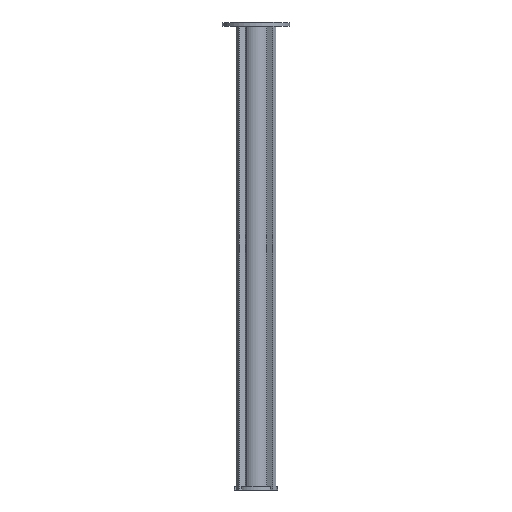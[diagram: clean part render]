
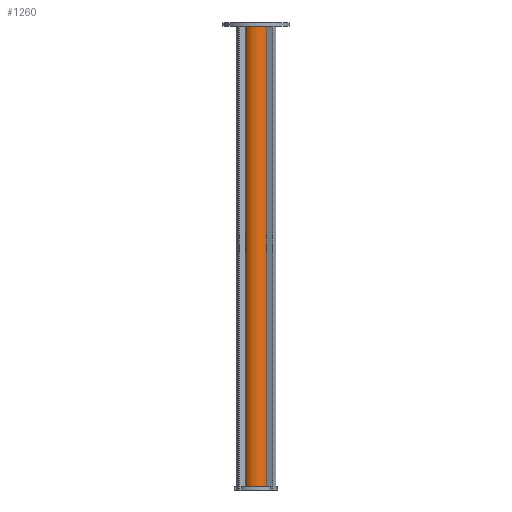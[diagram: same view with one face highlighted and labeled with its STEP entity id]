
A CAD part, front view. The second image highlights one B-rep face of the part: STEP entity #1260.
In plain terms, the highlighted cylindrical face has radius 51 mm (diameter 102 mm), a partial arc.
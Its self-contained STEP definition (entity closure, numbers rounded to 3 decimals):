
#114 = AXIS2_PLACEMENT_3D ( 'NONE', #1194, #2070, #2703 ) ;
#248 = LINE ( 'NONE', #1953, #1500 ) ;
#262 = CIRCLE ( 'NONE', #485, 51. ) ;
#418 = DIRECTION ( 'NONE',  ( 0., 0., 1. ) ) ;
#485 = AXIS2_PLACEMENT_3D ( 'NONE', #823, #1245, #418 ) ;
#501 = ORIENTED_EDGE ( 'NONE', *, *, #1876, .F. ) ;
#601 = CARTESIAN_POINT ( 'NONE',  ( 0., 851.5, 0. ) ) ;
#602 = EDGE_CURVE ( 'NONE', #626, #1283, #262, .T. ) ;
#626 = VERTEX_POINT ( 'NONE', #1433 ) ;
#823 = CARTESIAN_POINT ( 'NONE',  ( 0., -851.5, 0. ) ) ;
#880 = VERTEX_POINT ( 'NONE', #2083 ) ;
#957 = CARTESIAN_POINT ( 'NONE',  ( 0., 851.5, -51. ) ) ;
#971 = CYLINDRICAL_SURFACE ( 'NONE', #1811, 51. ) ;
#1065 = VECTOR ( 'NONE', #1141, 1000. ) ;
#1141 = DIRECTION ( 'NONE',  ( 0., -1., 0. ) ) ;
#1194 = CARTESIAN_POINT ( 'NONE',  ( 0., 851.5, 0. ) ) ;
#1235 = ORIENTED_EDGE ( 'NONE', *, *, #602, .T. ) ;
#1245 = DIRECTION ( 'NONE',  ( 0., 1., 0. ) ) ;
#1260 = ADVANCED_FACE ( 'NONE', ( #2477 ), #971, .T. ) ;
#1283 = VERTEX_POINT ( 'NONE', #1645 ) ;
#1318 = ORIENTED_EDGE ( 'NONE', *, *, #2709, .F. ) ;
#1429 = DIRECTION ( 'NONE',  ( 0., 0., -1. ) ) ;
#1433 = CARTESIAN_POINT ( 'NONE',  ( 0., -851.5, 51. ) ) ;
#1500 = VECTOR ( 'NONE', #2402, 1000. ) ;
#1630 = LINE ( 'NONE', #957, #1065 ) ;
#1645 = CARTESIAN_POINT ( 'NONE',  ( 0., -851.5, -51. ) ) ;
#1656 = EDGE_CURVE ( 'NONE', #880, #626, #248, .T. ) ;
#1692 = CIRCLE ( 'NONE', #114, 51. ) ;
#1811 = AXIS2_PLACEMENT_3D ( 'NONE', #601, #2300, #1429 ) ;
#1861 = EDGE_LOOP ( 'NONE', ( #1318, #2433, #1235, #501 ) ) ;
#1876 = EDGE_CURVE ( 'NONE', #2611, #1283, #1630, .T. ) ;
#1953 = CARTESIAN_POINT ( 'NONE',  ( 0., 851.5, 51. ) ) ;
#2070 = DIRECTION ( 'NONE',  ( 0., 1., 0. ) ) ;
#2083 = CARTESIAN_POINT ( 'NONE',  ( 0., 851.5, 51. ) ) ;
#2300 = DIRECTION ( 'NONE',  ( 0., -1., 0. ) ) ;
#2402 = DIRECTION ( 'NONE',  ( 0., -1., 0. ) ) ;
#2407 = CARTESIAN_POINT ( 'NONE',  ( 0., 851.5, -51. ) ) ;
#2433 = ORIENTED_EDGE ( 'NONE', *, *, #1656, .T. ) ;
#2477 = FACE_OUTER_BOUND ( 'NONE', #1861, .T. ) ;
#2611 = VERTEX_POINT ( 'NONE', #2407 ) ;
#2703 = DIRECTION ( 'NONE',  ( 0., 0., 1. ) ) ;
#2709 = EDGE_CURVE ( 'NONE', #880, #2611, #1692, .T. ) ;
